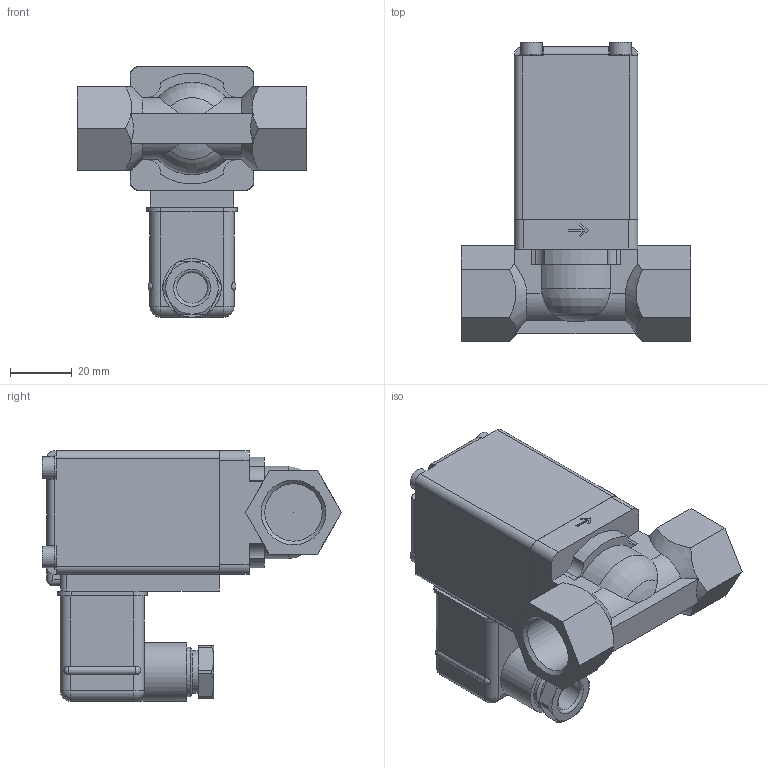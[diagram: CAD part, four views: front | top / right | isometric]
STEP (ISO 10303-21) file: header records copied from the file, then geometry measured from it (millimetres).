
FILE_DESCRIPTION(/* description */ ('STEP AP203'),/* implementation_level */ '2;1');
FILE_NAME(/* name */ '0290-020366-Servo-assisted__2_2_way_diaphragm_valve',/* time_stamp */ '2024-01-05T09:37:46+01:00',/* author */ ('License CC BY-ND 4.0'),/* organization */ ('CADENAS'),/* preprocessor_version */ 'ST-DEVELOPER v19.3',/* originating_system */ 'PARTsolutions',/* authorisation */ ' ');
FILE_SCHEMA (('CONFIG_CONTROL_DESIGN'));
Length unit declared in the file: millimetre
Products named in the file (3): 0290-020366-Servo-assisted  2/2 way diaphragm valve; 0290g-12VA2/2-way Solenoid Valve_cover; 0290d-12VA2/2-way Solenoid Valve_cover
Assembly tree (2 placements, depth 2):
  0290-020366-Servo-assisted  2/2 way diaphragm valve
    0290g-12VA2/2-way Solenoid Valve_cover
    0290d-12VA2/2-way Solenoid Valve_cover
Bounding box: 74.5 x 96.99 x 81.2 mm (x, y, z)
Volume: 180666.5 mm3; surface area: 31660.8 mm2
Topology: 2 solids, 2 shells, 229 faces, 610 edges, 395 vertices
Faces by surface type: plane 127, cylinder 73, cone 16, sphere 10, torus 3
Full cylindrical faces by diameter (mm): 0.2 x1, 7 x5, 10 x1, 13.7 x1, 16 x1, 18.631 x2, 19 x1
Entity records: 8065 total; most frequent: CARTESIAN_POINT 1480, ORIENTED_EDGE 1170, DIRECTION 1142, EDGE_CURVE 585, AXIS2_PLACEMENT_3D 395, VERTEX_POINT 391, LINE 352, VECTOR 352
